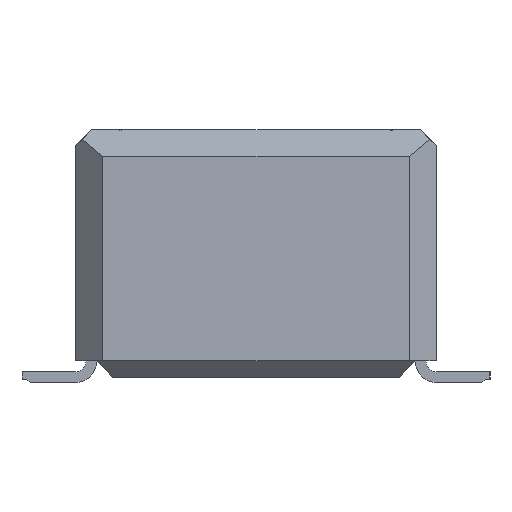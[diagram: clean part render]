
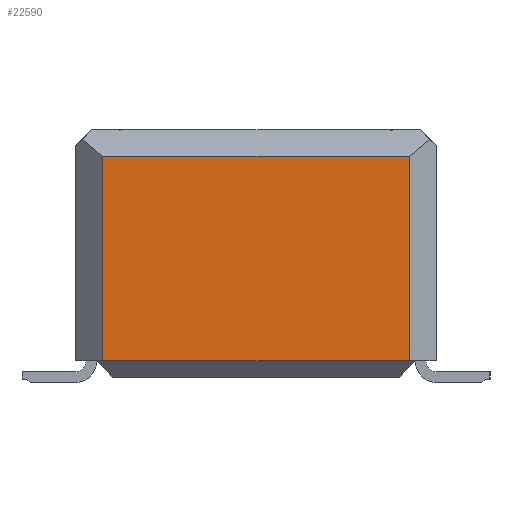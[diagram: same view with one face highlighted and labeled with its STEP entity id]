
A CAD part, front view. The second image highlights one B-rep face of the part: STEP entity #22590.
In plain terms, the highlighted planar face has unit normal (0, -1, 0).
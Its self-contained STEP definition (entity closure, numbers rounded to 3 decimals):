
#128 = LINE ( 'NONE', #7394, #6826 ) ;
#260 = AXIS2_PLACEMENT_3D ( 'NONE', #20563, #9968, #4866 ) ;
#1031 = CARTESIAN_POINT ( 'NONE',  ( 2.01, -2.985, 2.05 ) ) ;
#1193 = ORIENTED_EDGE ( 'NONE', *, *, #18583, .T. ) ;
#1217 = CARTESIAN_POINT ( 'NONE',  ( -1.425, -2.985, 2.05 ) ) ;
#1570 = VECTOR ( 'NONE', #17306, 1000. ) ;
#1820 = LINE ( 'NONE', #12168, #1570 ) ;
#4866 = DIRECTION ( 'NONE',  ( -1., 0., 0. ) ) ;
#6367 = FACE_OUTER_BOUND ( 'NONE', #13564, .T. ) ;
#6688 = DIRECTION ( 'NONE',  ( 1., 0., 0. ) ) ;
#6826 = VECTOR ( 'NONE', #21614, 1000. ) ;
#7394 = CARTESIAN_POINT ( 'NONE',  ( 1.48, -2.985, 0.15 ) ) ;
#8448 = CARTESIAN_POINT ( 'NONE',  ( 1.425, -2.985, 2.05 ) ) ;
#9190 = ORIENTED_EDGE ( 'NONE', *, *, #15956, .F. ) ;
#9249 = VERTEX_POINT ( 'NONE', #8448 ) ;
#9772 = ORIENTED_EDGE ( 'NONE', *, *, #12633, .F. ) ;
#9814 = VERTEX_POINT ( 'NONE', #1217 ) ;
#9968 = DIRECTION ( 'NONE',  ( 0., -1., 0. ) ) ;
#10372 = CARTESIAN_POINT ( 'NONE',  ( 1.425, -2.985, 0.15 ) ) ;
#11733 = DIRECTION ( 'NONE',  ( 0., 0., -1. ) ) ;
#12168 = CARTESIAN_POINT ( 'NONE',  ( -1.425, -2.985, 0. ) ) ;
#12633 = EDGE_CURVE ( 'NONE', #9814, #9249, #20895, .T. ) ;
#12645 = VERTEX_POINT ( 'NONE', #15994 ) ;
#13479 = PLANE ( 'NONE',  #260 ) ;
#13564 = EDGE_LOOP ( 'NONE', ( #9772, #9190, #1193, #13788 ) ) ;
#13788 = ORIENTED_EDGE ( 'NONE', *, *, #18832, .F. ) ;
#15956 = EDGE_CURVE ( 'NONE', #12645, #9814, #1820, .T. ) ;
#15994 = CARTESIAN_POINT ( 'NONE',  ( -1.425, -2.985, 0.15 ) ) ;
#17306 = DIRECTION ( 'NONE',  ( 0., 0., 1. ) ) ;
#17325 = LINE ( 'NONE', #17425, #18326 ) ;
#17425 = CARTESIAN_POINT ( 'NONE',  ( 1.425, -2.985, 0. ) ) ;
#18326 = VECTOR ( 'NONE', #11733, 1000. ) ;
#18583 = EDGE_CURVE ( 'NONE', #12645, #19936, #128, .T. ) ;
#18832 = EDGE_CURVE ( 'NONE', #9249, #19936, #17325, .T. ) ;
#19639 = VECTOR ( 'NONE', #6688, 1000. ) ;
#19936 = VERTEX_POINT ( 'NONE', #10372 ) ;
#20563 = CARTESIAN_POINT ( 'NONE',  ( 0., -2.985, 0. ) ) ;
#20895 = LINE ( 'NONE', #1031, #19639 ) ;
#21614 = DIRECTION ( 'NONE',  ( 1., 0., 0. ) ) ;
#22590 = ADVANCED_FACE ( 'NONE', ( #6367 ), #13479, .T. ) ;
